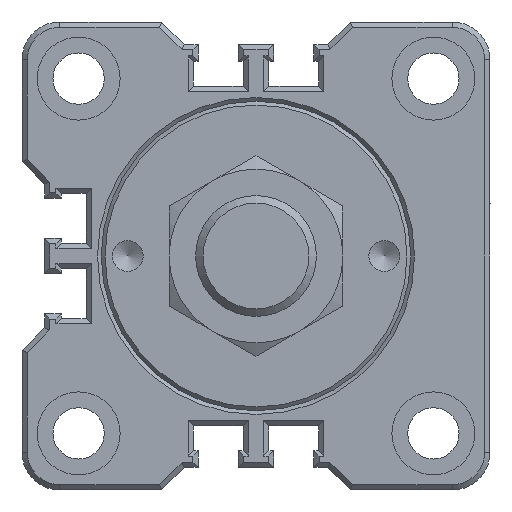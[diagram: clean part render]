
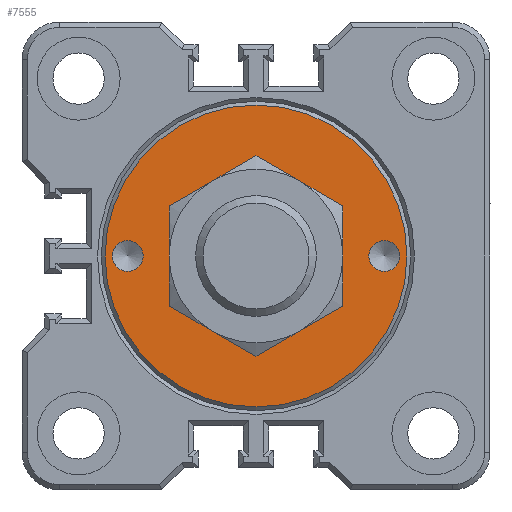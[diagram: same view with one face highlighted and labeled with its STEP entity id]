
A CAD part, front view. The second image highlights one B-rep face of the part: STEP entity #7555.
In plain terms, the highlighted planar face has unit normal (0, -1, 0).
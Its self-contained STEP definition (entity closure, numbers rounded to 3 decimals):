
#1644=ORIENTED_EDGE('',*,*,#2907,.T.);
#1645=ORIENTED_EDGE('',*,*,#2906,.F.);
#1646=ORIENTED_EDGE('',*,*,#2905,.T.);
#1647=ORIENTED_EDGE('',*,*,#2933,.T.);
#2905=EDGE_CURVE('',#3577,#3577,#3967,.T.);
#2906=EDGE_CURVE('',#3578,#3578,#3968,.T.);
#2907=EDGE_CURVE('',#3579,#3579,#3969,.T.);
#2933=EDGE_CURVE('',#3599,#3599,#3971,.T.);
#3577=VERTEX_POINT('',#10637);
#3578=VERTEX_POINT('',#10640);
#3579=VERTEX_POINT('',#10643);
#3599=VERTEX_POINT('',#10811);
#3967=CIRCLE('',#7922,2.05);
#3968=CIRCLE('',#7924,10.);
#3969=CIRCLE('',#7926,2.05);
#3971=CIRCLE('',#7930,20.);
#4139=EDGE_LOOP('',(#1644));
#4140=EDGE_LOOP('',(#1645));
#4141=EDGE_LOOP('',(#1646));
#4142=EDGE_LOOP('',(#1647));
#4547=FACE_BOUND('',#4139,.T.);
#4548=FACE_BOUND('',#4140,.T.);
#4549=FACE_BOUND('',#4141,.T.);
#4550=FACE_BOUND('',#4142,.T.);
#4868=PLANE('',#7929);
#7555=ADVANCED_FACE('',(#4547,#4548,#4549,#4550),#4868,.T.);
#7922=AXIS2_PLACEMENT_3D('',#10636,#8503,#8504);
#7924=AXIS2_PLACEMENT_3D('',#10639,#8507,#8508);
#7926=AXIS2_PLACEMENT_3D('',#10642,#8511,#8512);
#7929=AXIS2_PLACEMENT_3D('',#10809,#8517,#8518);
#7930=AXIS2_PLACEMENT_3D('',#10810,#8519,#8520);
#8503=DIRECTION('',(0.,1.,0.));
#8504=DIRECTION('',(0.,0.,-1.));
#8507=DIRECTION('',(0.,-1.,0.));
#8508=DIRECTION('',(1.,0.,0.));
#8511=DIRECTION('',(0.,1.,0.));
#8512=DIRECTION('',(0.,0.,-1.));
#8517=DIRECTION('',(0.,-1.,0.));
#8518=DIRECTION('',(1.,0.,0.));
#8519=DIRECTION('',(0.,-1.,0.));
#8520=DIRECTION('',(0.,0.,-1.));
#10636=CARTESIAN_POINT('',(-17.,0.,0.));
#10637=CARTESIAN_POINT('',(-17.,0.,-2.05));
#10639=CARTESIAN_POINT('',(0.,0.,0.));
#10640=CARTESIAN_POINT('',(10.,0.,0.));
#10642=CARTESIAN_POINT('',(17.,0.,0.));
#10643=CARTESIAN_POINT('',(17.,0.,-2.05));
#10809=CARTESIAN_POINT('',(-26.,0.,26.));
#10810=CARTESIAN_POINT('',(0.,0.,0.));
#10811=CARTESIAN_POINT('',(0.,0.,-20.));
